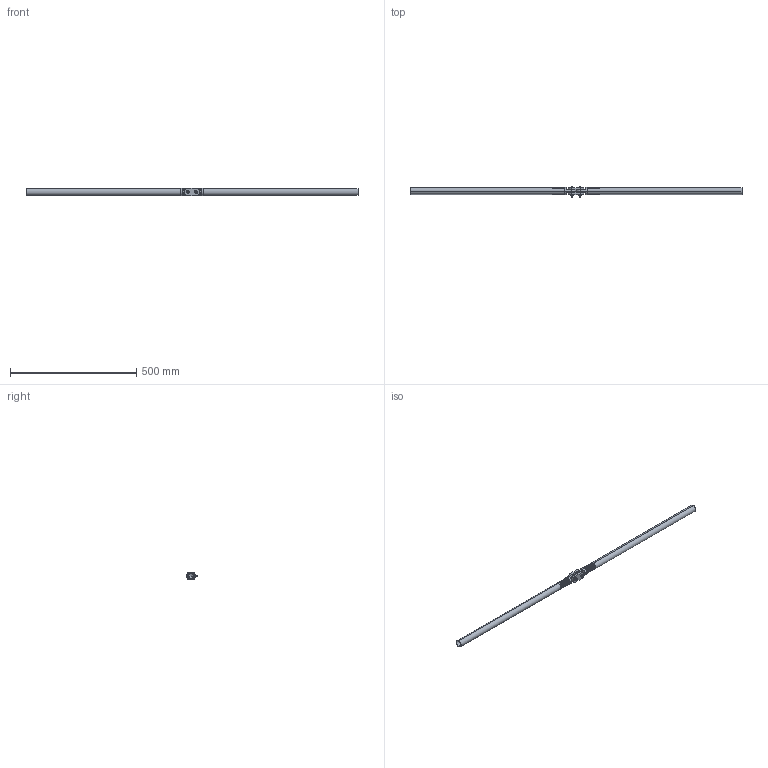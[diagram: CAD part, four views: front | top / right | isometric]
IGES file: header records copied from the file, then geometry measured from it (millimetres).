
Start section: SolidWorks IGES file using analytic representation for surfaces
Global section: file name: \\SERVER3\Design\_NEWDE~1\_DESIG~1\AAI\MODULA~1\SOLIDW~1\DEMONS~1\25DBF2~1.ASS\MODULA~1\34EB7~1.ANG\ANGULA~2\Male to Link and Link to Male.IGS; native system: SolidWorks 2013; preprocessor: SolidWorks 2013; author: tbraun; date: 130819.115530; units: inch
Bounding box: 1312.72 x 41.45 x 28.57 mm (x, y, z)
Surface area: 241133.4 mm2 (no closed solid volume)
Topology: 0 solids, 0 shells, 1140 faces, 14348 edges, 14342 vertices
Faces by surface type: revolution 850, bspline 290
